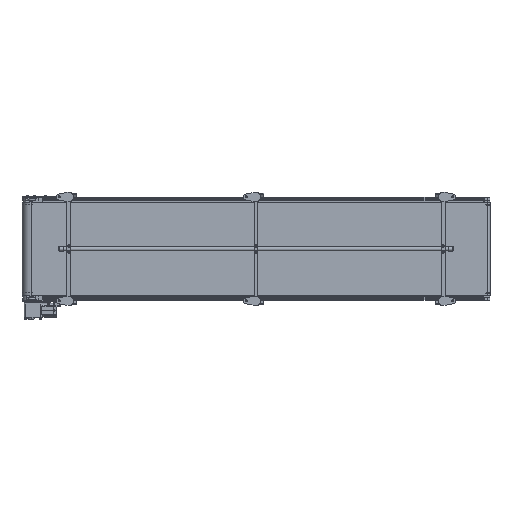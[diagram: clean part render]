
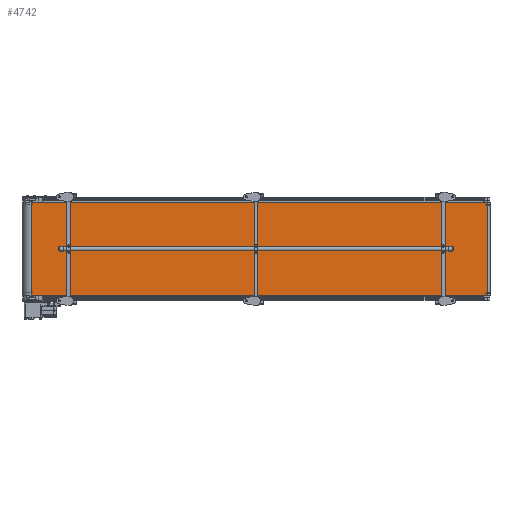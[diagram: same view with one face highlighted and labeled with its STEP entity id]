
A CAD part, front view. The second image highlights one B-rep face of the part: STEP entity #4742.
In plain terms, the highlighted planar face has unit normal (0.028, -1, 0).
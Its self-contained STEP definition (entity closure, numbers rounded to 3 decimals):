
#4742=ADVANCED_FACE('',(#31698),#31697,.F.);
#31697=PLANE('',#48074);
#31698=FACE_OUTER_BOUND('',#48075,.T.);
#48071=CARTESIAN_POINT('',(2992.998,-33.417,-310.));
#48072=DIRECTION('',(-0.028,1.,0.));
#48073=DIRECTION('',(-1.,-0.028,0.));
#48074=AXIS2_PLACEMENT_3D('',#48071,#48072,#48073);
#48075=EDGE_LOOP('',(#62001,#62002,#62003,#62004));
#62001=ORIENTED_EDGE('',*,*,#69346,.T.);
#62002=ORIENTED_EDGE('',*,*,#69353,.F.);
#62003=ORIENTED_EDGE('',*,*,#69340,.F.);
#62004=ORIENTED_EDGE('',*,*,#69354,.T.);
#69340=EDGE_CURVE('',#113903,#113888,#113910,.T.);
#69346=EDGE_CURVE('',#113952,#113944,#113953,.T.);
#69353=EDGE_CURVE('',#113888,#113944,#114000,.T.);
#69354=EDGE_CURVE('',#113903,#113952,#114006,.T.);
#113888=VERTEX_POINT('',#143408);
#113903=VERTEX_POINT('',#143418);
#113910=LINE('',#143423,#143424);
#113944=VERTEX_POINT('',#143444);
#113952=VERTEX_POINT('',#143450);
#113953=LINE('',#143451,#143452);
#114000=LINE('',#143480,#143481);
#114006=LINE('',#143483,#143484);
#143408=CARTESIAN_POINT('',(2983.002,-33.693,300.));
#143418=CARTESIAN_POINT('',(59.109,-114.328,300.));
#143423=CARTESIAN_POINT('',(59.109,-114.328,300.));
#143424=VECTOR('',#143425,2925.005);
#143425=DIRECTION('',(1.,0.028,0.));
#143444=CARTESIAN_POINT('',(2983.002,-33.693,-300.));
#143450=CARTESIAN_POINT('',(59.109,-114.328,-300.));
#143451=CARTESIAN_POINT('',(59.109,-114.328,-300.));
#143452=VECTOR('',#143453,2925.005);
#143453=DIRECTION('',(1.,0.028,0.));
#143480=CARTESIAN_POINT('',(2983.002,-33.693,300.));
#143481=VECTOR('',#143482,600.);
#143482=DIRECTION('',(0.,0.,-1.));
#143483=CARTESIAN_POINT('',(59.109,-114.328,300.));
#143484=VECTOR('',#143485,600.);
#143485=DIRECTION('',(0.,0.,-1.));
